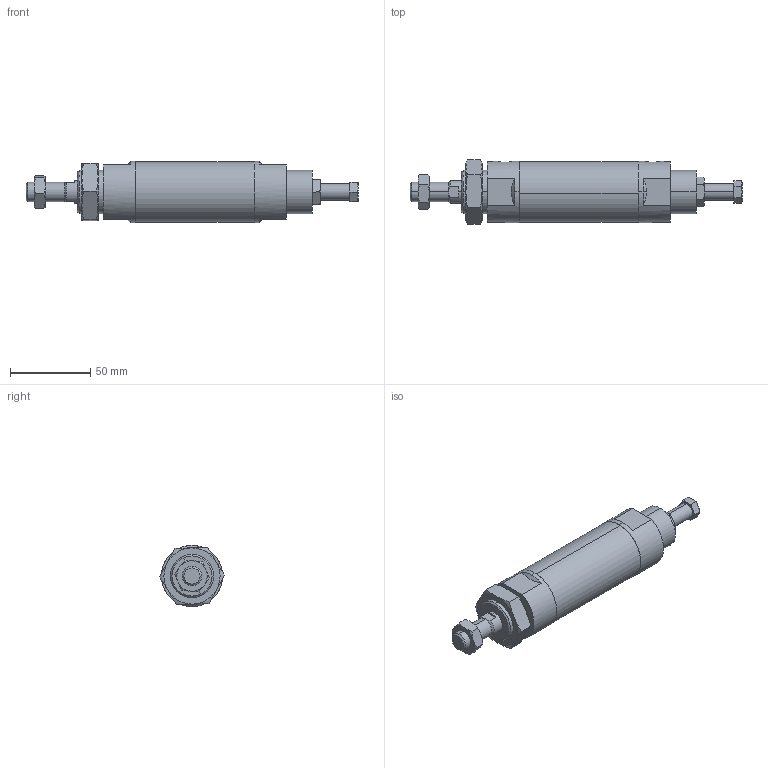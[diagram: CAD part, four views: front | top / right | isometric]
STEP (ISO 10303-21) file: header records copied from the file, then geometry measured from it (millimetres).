
FILE_DESCRIPTION (( 'STEP AP203' ), '1' );
FILE_NAME ('JGA2-32-25-N.STEP', '2016-04-20T05:08:28', ( '' ), ( '' ), 'SwSTEP 2.0', 'SolidWorks 2014', '' );
FILE_SCHEMA (( 'CONFIG_CONTROL_DESIGN' ));
Length unit declared in the file: millimetre
Products named in the file (6): M27x2-10mm; JGA2-32-25-N; M12x1.25-7mm; JGA2-32A; JGLH2-32B; 32-25
Assembly tree (5 placements, depth 2):
  JGA2-32-25-N
    JGLH2-32B
    32-25
    JGA2-32A
    M12x1.25-7mm
    M27x2-10mm
Bounding box: 206.5 x 40.4 x 38 mm (x, y, z)
Volume: 155774.3 mm3; surface area: 30615.7 mm2
Topology: 5 solids, 5 shells, 124 faces, 274 edges, 164 vertices
Faces by surface type: plane 48, torus 36, cylinder 24, cone 16
Entity records: 4684 total; most frequent: CARTESIAN_POINT 1436, DIRECTION 544, ORIENTED_EDGE 540, EDGE_CURVE 270, AXIS2_PLACEMENT_3D 228, VERTEX_POINT 164, EDGE_LOOP 136, ADVANCED_FACE 124
